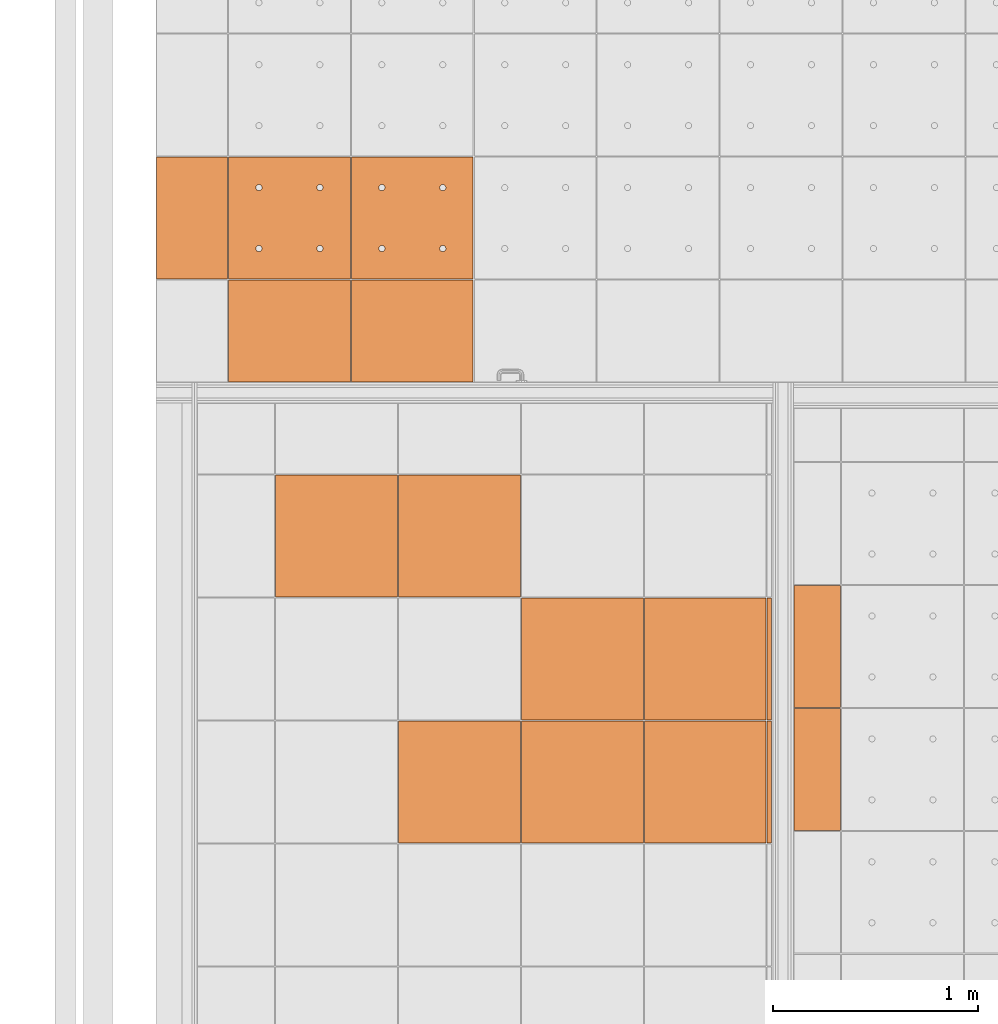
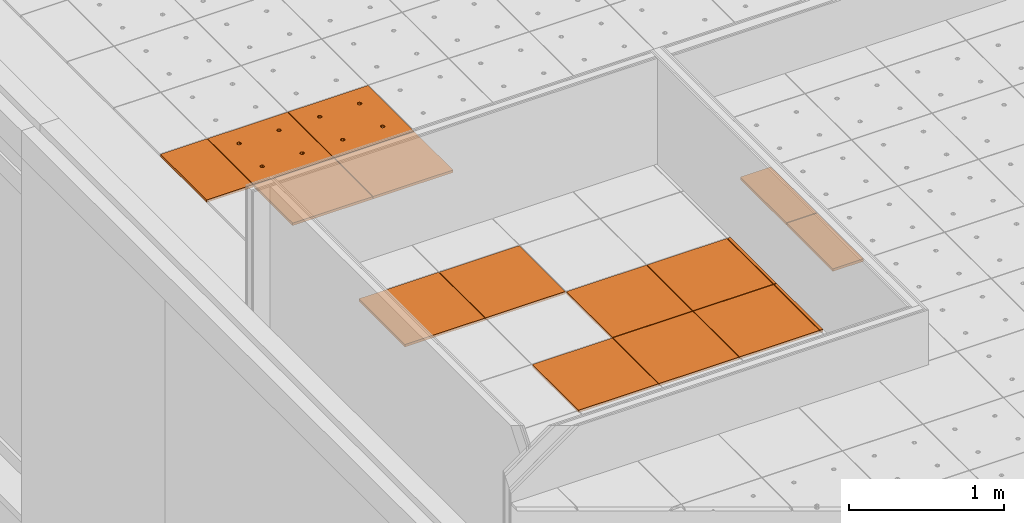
# One storey, part 243 of 338: 16 proxies, 3 elements without a shape of their own.
"""IFC2X3 building model written with IfcOpenShell, lengths in millimetres."""

from ifc_helpers import new_model, entity, si_unit, converted_unit, derived_unit, money_unit, direction, frame, origin_with_axes, place, context, subcontext, project, spatial, faceted_brep, source, transform, mapped, material, type_object, type_shapes, element, aggregate, save


model = new_model("IFC2X3")

# Units and contexts
model_context = context("Model", 3, precision=0.01, world=origin_with_axes(), true_north=direction((0.0, 1.0)))
plan_context = context("Plan", 3, precision=0.01, world=origin_with_axes(), true_north=direction((0.0, 1.0)))
body_context = subcontext(model_context, "Body", "Model", "MODEL_VIEW")
ifc_project = project(units=[si_unit("LENGTHUNIT", "METRE", prefix="MILLI"), si_unit("AREAUNIT", "SQUARE_METRE"), si_unit("VOLUMEUNIT", "CUBIC_METRE"), converted_unit("PLANEANGLEUNIT", "DEGREE", entity("IfcPlaneAngleMeasure", 0.0174532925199), si_unit("PLANEANGLEUNIT", "RADIAN"), dimensions=[0, 0, 0, 0, 0, 0, 0]), money_unit("EUR"), converted_unit("TIMEUNIT", "Year", entity("IfcTimeMeasure", 31556926.0), si_unit("TIMEUNIT", "SECOND"), dimensions=[0, 0, 1, 0, 0, 0, 0]), si_unit("MASSUNIT", "GRAM", prefix="KILO"), si_unit("THERMODYNAMICTEMPERATUREUNIT", "DEGREE_CELSIUS"), si_unit("LUMINOUSINTENSITYUNIT", "LUMEN"), si_unit("ENERGYUNIT", "JOULE", prefix="MEGA"), derived_unit("THERMALCONDUCTANCEUNIT", [(si_unit("POWERUNIT", "WATT"), 1), (si_unit("LENGTHUNIT", "METRE"), -1), (si_unit("THERMODYNAMICTEMPERATUREUNIT", "KELVIN"), -1)]), derived_unit("SPECIFICHEATCAPACITYUNIT", [(si_unit("ENERGYUNIT", "JOULE"), 1), (si_unit("MASSUNIT", "GRAM", prefix="KILO"), -1), (si_unit("THERMODYNAMICTEMPERATUREUNIT", "KELVIN"), -1)]), derived_unit("MASSDENSITYUNIT", [(si_unit("MASSUNIT", "GRAM", prefix="KILO"), 1), (si_unit("VOLUMEUNIT", "CUBIC_METRE"), -1)])], contexts=[model_context, plan_context])

# Site, building, storey
site_placement = place(None, origin_with_axes())
site = spatial("IfcSite", under=ifc_project, at=site_placement, Name="Fortuinstraat Woensdrecht", CompositionType="ELEMENT")
building_placement = place(site_placement, origin_with_axes())
building = spatial("IfcBuilding", under=site, at=building_placement, Name="IKC Fortuna", CompositionType="ELEMENT")
storey_placement = place(building_placement, origin_with_axes())
storey = spatial("IfcBuildingStorey", under=building, at=storey_placement, Name="00 begane grond", CompositionType="ELEMENT", Elevation=0.0)

# Covering, proxies
covering_type = type_object("IfcCoveringType", Name="Curtain Wall Type", PredefinedType="CEILING")
covering_1_placement = place(storey_placement, frame((15059.4416165, 34009.703821, 3210.0), z_axis=(0.0, 0.0, 1.0), x_axis=(1.0, 0.0, 0.0)))
covering_1 = element("IfcCovering", 1, at=covering_1_placement, inside=storey, type_object=covering_type, Name="45_Plafondafwerking_P01", PredefinedType="CEILING")
ifc_material = material(Name="Gipsplaat")
building_element_proxy_type_1 = type_object("IfcBuildingElementProxyType", Name="Distinct Panel 600 x 600 x 20", PredefinedType="NOTDEFINED")
shared_shape_1 = source(origin_with_axes(), body_context, "Body", "Brep", [
    faceted_brep([(2.49999999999, 2.49999999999, -10.0), (300.0, 2.49999999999, -10.0), (300.0, 2.49999999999, 10.0), (2.49999999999, 2.49999999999, 10.0), (2.49999999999, 300.0, -10.0), (2.49999999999, 597.5, -10.0), (300.0, 597.5, -10.0), (597.5, 597.5, -10.0), (597.5, 300.0, -10.0), (597.5, 2.49999999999, -10.0), (166.25, 450.06232995, -10.0), (165.79423259, 452.64711538, -10.0), (164.896546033, 455.11348892, -10.0), (163.58421608, 457.38651108, -10.0), (161.897117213, 459.39711721, -10.0), (159.886511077, 461.08421608, -10.0), (157.613488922, 462.39654603, -10.0), (155.147115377, 463.29423259, -10.0), (152.562329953, 463.75, -10.0), (149.937670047, 463.75, -10.0), (147.352884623, 463.29423259, -10.0), (144.886511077, 462.39654603, -10.0), (142.613488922, 461.08421608, -10.0), (140.602882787, 459.39711721, -10.0), (138.91578392, 457.38651108, -10.0), (137.603453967, 455.11348892, -10.0), (136.705767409, 452.64711538, -10.0), (136.25, 450.06232995, -10.0), (136.25, 448.75, -10.0), (136.25, 447.43767005, -10.0), (136.705767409, 444.85288462, -10.0), (137.603453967, 442.38651108, -10.0), (138.91578392, 440.11348892, -10.0), (140.602882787, 438.10288279, -10.0), (142.613488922, 436.41578392, -10.0), (144.886511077, 435.10345397, -10.0), (147.352884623, 434.20576741, -10.0), (149.937670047, 433.75, -10.0), (152.562329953, 433.75, -10.0), (155.147115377, 434.20576741, -10.0), (157.613488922, 435.10345397, -10.0), (159.886511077, 436.41578392, -10.0), (161.897117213, 438.10288279, -10.0), (163.58421608, 440.11348892, -10.0), (164.896546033, 442.38651108, -10.0), (165.79423259, 444.85288462, -10.0), (166.25, 447.43767005, -10.0), (463.75, 450.06232995, -10.0), (463.29423259, 452.64711538, -10.0), (462.396546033, 455.11348892, -10.0), (461.08421608, 457.38651108, -10.0), (459.397117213, 459.39711721, -10.0), (457.386511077, 461.08421608, -10.0), (455.113488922, 462.39654603, -10.0), (452.647115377, 463.29423259, -10.0), (450.062329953, 463.75, -10.0), (447.437670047, 463.75, -10.0), (444.852884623, 463.29423259, -10.0), (442.386511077, 462.39654603, -10.0), (440.113488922, 461.08421608, -10.0), (438.102882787, 459.39711721, -10.0), (436.41578392, 457.38651108, -10.0), (435.103453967, 455.11348892, -10.0), (434.205767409, 452.64711538, -10.0), (433.75, 450.06232995, -10.0), (433.75, 448.75, -10.0), (433.75, 447.43767005, -10.0), (434.205767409, 444.85288462, -10.0), (435.103453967, 442.38651108, -10.0), (436.41578392, 440.11348892, -10.0), (438.102882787, 438.10288279, -10.0), (440.113488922, 436.41578392, -10.0), (442.386511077, 435.10345397, -10.0), (444.852884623, 434.20576741, -10.0), (447.437670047, 433.75, -10.0), (450.062329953, 433.75, -10.0), (452.647115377, 434.20576741, -10.0), (455.113488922, 435.10345397, -10.0), (457.386511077, 436.41578392, -10.0), (459.397117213, 438.10288279, -10.0), (461.08421608, 440.11348892, -10.0), (462.396546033, 442.38651108, -10.0), (463.29423259, 444.85288462, -10.0), (463.75, 447.43767005, -10.0), (463.75, 152.56232995, -10.0), (463.29423259, 155.14711538, -10.0), (462.396546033, 157.61348892, -10.0), (461.08421608, 159.88651108, -10.0), (459.397117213, 161.89711721, -10.0), (457.386511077, 163.58421608, -10.0), (455.113488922, 164.89654603, -10.0), (452.647115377, 165.79423259, -10.0), (450.062329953, 166.25, -10.0), (447.437670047, 166.25, -10.0), (444.852884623, 165.79423259, -10.0), (442.386511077, 164.89654603, -10.0), (440.113488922, 163.58421608, -10.0), (438.102882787, 161.89711721, -10.0), (436.41578392, 159.88651108, -10.0), (435.103453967, 157.61348892, -10.0), (434.205767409, 155.14711538, -10.0), (433.75, 152.56232995, -10.0), (433.75, 151.25, -10.0), (433.75, 149.93767005, -10.0), (434.205767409, 147.35288462, -10.0), (435.103453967, 144.88651108, -10.0), (436.41578392, 142.61348892, -10.0), (438.102882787, 140.60288279, -10.0), (440.113488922, 138.91578392, -10.0), (442.386511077, 137.60345397, -10.0), (444.852884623, 136.70576741, -10.0), (447.437670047, 136.25, -10.0), (450.062329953, 136.25, -10.0), (452.647115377, 136.70576741, -10.0), (455.113488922, 137.60345397, -10.0), (457.386511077, 138.91578392, -10.0), (459.397117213, 140.60288279, -10.0), (461.08421608, 142.61348892, -10.0), (462.396546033, 144.88651108, -10.0), (463.29423259, 147.35288462, -10.0), (463.75, 149.93767005, -10.0), (166.25, 152.56232995, -10.0), (165.79423259, 155.14711538, -10.0), (164.896546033, 157.61348892, -10.0), (163.58421608, 159.88651108, -10.0), (161.897117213, 161.89711721, -10.0), (159.886511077, 163.58421608, -10.0), (157.613488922, 164.89654603, -10.0), (155.147115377, 165.79423259, -10.0), (152.562329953, 166.25, -10.0), (149.937670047, 166.25, -10.0), (147.352884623, 165.79423259, -10.0), (144.886511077, 164.89654603, -10.0), (142.613488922, 163.58421608, -10.0), (140.602882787, 161.89711721, -10.0), (138.91578392, 159.88651108, -10.0), (137.603453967, 157.61348892, -10.0), (136.705767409, 155.14711538, -10.0), (136.25, 152.56232995, -10.0), (136.25, 151.25, -10.0), (136.25, 149.93767005, -10.0), (136.705767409, 147.35288462, -10.0), (137.603453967, 144.88651108, -10.0), (138.91578392, 142.61348892, -10.0), (140.602882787, 140.60288279, -10.0), (142.613488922, 138.91578392, -10.0), (144.886511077, 137.60345397, -10.0), (147.352884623, 136.70576741, -10.0), (149.937670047, 136.25, -10.0), (152.562329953, 136.25, -10.0), (155.147115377, 136.70576741, -10.0), (157.613488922, 137.60345397, -10.0), (159.886511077, 138.91578392, -10.0), (161.897117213, 140.60288279, -10.0), (163.58421608, 142.61348892, -10.0), (164.896546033, 144.88651108, -10.0), (165.79423259, 147.35288462, -10.0), (166.25, 149.93767005, -10.0), (597.5, 2.49999999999, 10.0), (597.5, 300.0, 10.0), (597.5, 597.5, 10.0), (300.0, 597.5, 10.0), (2.49999999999, 597.5, 10.0), (2.49999999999, 300.0, 10.0), (166.25, 450.06232995, 10.0), (166.25, 447.43767005, 10.0), (165.79423259, 444.85288462, 10.0), (164.896546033, 442.38651108, 10.0), (163.58421608, 440.11348892, 10.0), (161.897117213, 438.10288279, 10.0), (159.886511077, 436.41578392, 10.0), (157.613488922, 435.10345397, 10.0), (155.147115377, 434.20576741, 10.0), (152.562329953, 433.75, 10.0), (149.937670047, 433.75, 10.0), (147.352884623, 434.20576741, 10.0), (144.886511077, 435.10345397, 10.0), (142.613488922, 436.41578392, 10.0), (140.602882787, 438.10288279, 10.0), (138.91578392, 440.11348892, 10.0), (137.603453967, 442.38651108, 10.0), (136.705767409, 444.85288462, 10.0), (136.25, 447.43767005, 10.0), (136.25, 448.75, 10.0), (136.25, 450.06232995, 10.0), (136.705767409, 452.64711538, 10.0), (137.603453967, 455.11348892, 10.0), (138.91578392, 457.38651108, 10.0), (140.602882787, 459.39711721, 10.0), (142.613488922, 461.08421608, 10.0), (144.886511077, 462.39654603, 10.0), (147.352884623, 463.29423259, 10.0), (149.937670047, 463.75, 10.0), (152.562329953, 463.75, 10.0), (155.147115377, 463.29423259, 10.0), (157.613488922, 462.39654603, 10.0), (159.886511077, 461.08421608, 10.0), (161.897117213, 459.39711721, 10.0), (163.58421608, 457.38651108, 10.0), (164.896546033, 455.11348892, 10.0), (165.79423259, 452.64711538, 10.0), (463.75, 450.06232995, 10.0), (463.75, 447.43767005, 10.0), (463.29423259, 444.85288462, 10.0), (462.396546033, 442.38651108, 10.0), (461.08421608, 440.11348892, 10.0), (459.397117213, 438.10288279, 10.0), (457.386511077, 436.41578392, 10.0), (455.113488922, 435.10345397, 10.0), (452.647115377, 434.20576741, 10.0), (450.062329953, 433.75, 10.0), (447.437670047, 433.75, 10.0), (444.852884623, 434.20576741, 10.0), (442.386511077, 435.10345397, 10.0), (440.113488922, 436.41578392, 10.0), (438.102882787, 438.10288279, 10.0), (436.41578392, 440.11348892, 10.0), (435.103453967, 442.38651108, 10.0), (434.205767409, 444.85288462, 10.0), (433.75, 447.43767005, 10.0), (433.75, 448.75, 10.0), (433.75, 450.06232995, 10.0), (434.205767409, 452.64711538, 10.0), (435.103453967, 455.11348892, 10.0), (436.41578392, 457.38651108, 10.0), (438.102882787, 459.39711721, 10.0), (440.113488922, 461.08421608, 10.0), (442.386511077, 462.39654603, 10.0), (444.852884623, 463.29423259, 10.0), (447.437670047, 463.75, 10.0), (450.062329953, 463.75, 10.0), (452.647115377, 463.29423259, 10.0), (455.113488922, 462.39654603, 10.0), (457.386511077, 461.08421608, 10.0), (459.397117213, 459.39711721, 10.0), (461.08421608, 457.38651108, 10.0), (462.396546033, 455.11348892, 10.0), (463.29423259, 452.64711538, 10.0), (463.75, 152.56232995, 10.0), (463.75, 149.93767005, 10.0), (463.29423259, 147.35288462, 10.0), (462.396546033, 144.88651108, 10.0), (461.08421608, 142.61348892, 10.0), (459.397117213, 140.60288279, 10.0), (457.386511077, 138.91578392, 10.0), (455.113488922, 137.60345397, 10.0), (452.647115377, 136.70576741, 10.0), (450.062329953, 136.25, 10.0), (447.437670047, 136.25, 10.0), (444.852884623, 136.70576741, 10.0), (442.386511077, 137.60345397, 10.0), (440.113488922, 138.91578392, 10.0), (438.102882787, 140.60288279, 10.0), (436.41578392, 142.61348892, 10.0), (435.103453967, 144.88651108, 10.0), (434.205767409, 147.35288462, 10.0), (433.75, 149.93767005, 10.0), (433.75, 151.25, 10.0), (433.75, 152.56232995, 10.0), (434.205767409, 155.14711538, 10.0), (435.103453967, 157.61348892, 10.0), (436.41578392, 159.88651108, 10.0), (438.102882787, 161.89711721, 10.0), (440.113488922, 163.58421608, 10.0), (442.386511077, 164.89654603, 10.0), (444.852884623, 165.79423259, 10.0), (447.437670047, 166.25, 10.0), (450.062329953, 166.25, 10.0), (452.647115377, 165.79423259, 10.0), (455.113488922, 164.89654603, 10.0), (457.386511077, 163.58421608, 10.0), (459.397117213, 161.89711721, 10.0), (461.08421608, 159.88651108, 10.0), (462.396546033, 157.61348892, 10.0), (463.29423259, 155.14711538, 10.0), (166.25, 152.56232995, 10.0), (166.25, 149.93767005, 10.0), (165.79423259, 147.35288462, 10.0), (164.896546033, 144.88651108, 10.0), (163.58421608, 142.61348892, 10.0), (161.897117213, 140.60288279, 10.0), (159.886511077, 138.91578392, 10.0), (157.613488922, 137.60345397, 10.0), (155.147115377, 136.70576741, 10.0), (152.562329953, 136.25, 10.0), (149.937670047, 136.25, 10.0), (147.352884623, 136.70576741, 10.0), (144.886511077, 137.60345397, 10.0), (142.613488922, 138.91578392, 10.0), (140.602882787, 140.60288279, 10.0), (138.91578392, 142.61348892, 10.0), (137.603453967, 144.88651108, 10.0), (136.705767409, 147.35288462, 10.0), (136.25, 149.93767005, 10.0), (136.25, 151.25, 10.0), (136.25, 152.56232995, 10.0), (136.705767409, 155.14711538, 10.0), (137.603453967, 157.61348892, 10.0), (138.91578392, 159.88651108, 10.0), (140.602882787, 161.89711721, 10.0), (142.613488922, 163.58421608, 10.0), (144.886511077, 164.89654603, 10.0), (147.352884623, 165.79423259, 10.0), (149.937670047, 166.25, 10.0), (152.562329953, 166.25, 10.0), (155.147115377, 165.79423259, 10.0), (157.613488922, 164.89654603, 10.0), (159.886511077, 163.58421608, 10.0), (161.897117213, 161.89711721, 10.0), (163.58421608, 159.88651108, 10.0), (164.896546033, 157.61348892, 10.0), (165.79423259, 155.14711538, 10.0)], [[[0, 1, 2, 3]], [[0, 4, 5, 6, 7, 8, 9, 1], [10, 11, 12, 13, 14, 15, 16, 17, 18, 19, 20, 21, 22, 23, 24, 25, 26, 27, 28, 29, 30, 31, 32, 33, 34, 35, 36, 37, 38, 39, 40, 41, 42, 43, 44, 45, 46], [47, 48, 49, 50, 51, 52, 53, 54, 55, 56, 57, 58, 59, 60, 61, 62, 63, 64, 65, 66, 67, 68, 69, 70, 71, 72, 73, 74, 75, 76, 77, 78, 79, 80, 81, 82, 83], [84, 85, 86, 87, 88, 89, 90, 91, 92, 93, 94, 95, 96, 97, 98, 99, 100, 101, 102, 103, 104, 105, 106, 107, 108, 109, 110, 111, 112, 113, 114, 115, 116, 117, 118, 119, 120], [121, 122, 123, 124, 125, 126, 127, 128, 129, 130, 131, 132, 133, 134, 135, 136, 137, 138, 139, 140, 141, 142, 143, 144, 145, 146, 147, 148, 149, 150, 151, 152, 153, 154, 155, 156, 157]], [[1, 9, 158, 2]], [[3, 2, 158, 159, 160, 161, 162, 163], [164, 165, 166, 167, 168, 169, 170, 171, 172, 173, 174, 175, 176, 177, 178, 179, 180, 181, 182, 183, 184, 185, 186, 187, 188, 189, 190, 191, 192, 193, 194, 195, 196, 197, 198, 199, 200], [201, 202, 203, 204, 205, 206, 207, 208, 209, 210, 211, 212, 213, 214, 215, 216, 217, 218, 219, 220, 221, 222, 223, 224, 225, 226, 227, 228, 229, 230, 231, 232, 233, 234, 235, 236, 237], [238, 239, 240, 241, 242, 243, 244, 245, 246, 247, 248, 249, 250, 251, 252, 253, 254, 255, 256, 257, 258, 259, 260, 261, 262, 263, 264, 265, 266, 267, 268, 269, 270, 271, 272, 273, 274], [275, 276, 277, 278, 279, 280, 281, 282, 283, 284, 285, 286, 287, 288, 289, 290, 291, 292, 293, 294, 295, 296, 297, 298, 299, 300, 301, 302, 303, 304, 305, 306, 307, 308, 309, 310, 311]], [[4, 0, 3, 163]], [[5, 4, 163, 162]], [[6, 5, 162, 161]], [[7, 6, 161, 160]], [[8, 7, 160, 159]], [[9, 8, 159, 158]], [[11, 10, 164, 200]], [[12, 11, 200, 199]], [[13, 12, 199, 198]], [[14, 13, 198, 197]], [[15, 14, 197, 196]], [[16, 15, 196, 195]], [[17, 16, 195, 194]], [[18, 17, 194, 193]], [[19, 18, 193, 192]], [[20, 19, 192, 191]], [[21, 20, 191, 190]], [[22, 21, 190, 189]], [[23, 22, 189, 188]], [[24, 23, 188, 187]], [[25, 24, 187, 186]], [[26, 25, 186, 185]], [[27, 26, 185, 184]], [[28, 27, 184, 183]], [[29, 28, 183, 182]], [[30, 29, 182, 181]], [[31, 30, 181, 180]], [[32, 31, 180, 179]], [[33, 32, 179, 178]], [[34, 33, 178, 177]], [[35, 34, 177, 176]], [[36, 35, 176, 175]], [[37, 36, 175, 174]], [[38, 37, 174, 173]], [[39, 38, 173, 172]], [[40, 39, 172, 171]], [[41, 40, 171, 170]], [[42, 41, 170, 169]], [[43, 42, 169, 168]], [[44, 43, 168, 167]], [[45, 44, 167, 166]], [[46, 45, 166, 165]], [[10, 46, 165, 164]], [[48, 47, 201, 237]], [[49, 48, 237, 236]], [[50, 49, 236, 235]], [[51, 50, 235, 234]], [[52, 51, 234, 233]], [[53, 52, 233, 232]], [[54, 53, 232, 231]], [[55, 54, 231, 230]], [[56, 55, 230, 229]], [[57, 56, 229, 228]], [[58, 57, 228, 227]], [[59, 58, 227, 226]], [[60, 59, 226, 225]], [[61, 60, 225, 224]], [[62, 61, 224, 223]], [[63, 62, 223, 222]], [[64, 63, 222, 221]], [[65, 64, 221, 220]], [[66, 65, 220, 219]], [[67, 66, 219, 218]], [[68, 67, 218, 217]], [[69, 68, 217, 216]], [[70, 69, 216, 215]], [[71, 70, 215, 214]], [[72, 71, 214, 213]], [[73, 72, 213, 212]], [[74, 73, 212, 211]], [[75, 74, 211, 210]], [[76, 75, 210, 209]], [[77, 76, 209, 208]], [[78, 77, 208, 207]], [[79, 78, 207, 206]], [[80, 79, 206, 205]], [[81, 80, 205, 204]], [[82, 81, 204, 203]], [[83, 82, 203, 202]], [[47, 83, 202, 201]], [[85, 84, 238, 274]], [[86, 85, 274, 273]], [[87, 86, 273, 272]], [[88, 87, 272, 271]], [[89, 88, 271, 270]], [[90, 89, 270, 269]], [[91, 90, 269, 268]], [[92, 91, 268, 267]], [[93, 92, 267, 266]], [[94, 93, 266, 265]], [[95, 94, 265, 264]], [[96, 95, 264, 263]], [[97, 96, 263, 262]], [[98, 97, 262, 261]], [[99, 98, 261, 260]], [[100, 99, 260, 259]], [[101, 100, 259, 258]], [[102, 101, 258, 257]], [[103, 102, 257, 256]], [[104, 103, 256, 255]], [[105, 104, 255, 254]], [[106, 105, 254, 253]], [[107, 106, 253, 252]], [[108, 107, 252, 251]], [[109, 108, 251, 250]], [[110, 109, 250, 249]], [[111, 110, 249, 248]], [[112, 111, 248, 247]], [[113, 112, 247, 246]], [[114, 113, 246, 245]], [[115, 114, 245, 244]], [[116, 115, 244, 243]], [[117, 116, 243, 242]], [[118, 117, 242, 241]], [[119, 118, 241, 240]], [[120, 119, 240, 239]], [[84, 120, 239, 238]], [[122, 121, 275, 311]], [[123, 122, 311, 310]], [[124, 123, 310, 309]], [[125, 124, 309, 308]], [[126, 125, 308, 307]], [[127, 126, 307, 306]], [[128, 127, 306, 305]], [[129, 128, 305, 304]], [[130, 129, 304, 303]], [[131, 130, 303, 302]], [[132, 131, 302, 301]], [[133, 132, 301, 300]], [[134, 133, 300, 299]], [[135, 134, 299, 298]], [[136, 135, 298, 297]], [[137, 136, 297, 296]], [[138, 137, 296, 295]], [[139, 138, 295, 294]], [[140, 139, 294, 293]], [[141, 140, 293, 292]], [[142, 141, 292, 291]], [[143, 142, 291, 290]], [[144, 143, 290, 289]], [[145, 144, 289, 288]], [[146, 145, 288, 287]], [[147, 146, 287, 286]], [[148, 147, 286, 285]], [[149, 148, 285, 284]], [[150, 149, 284, 283]], [[151, 150, 283, 282]], [[152, 151, 282, 281]], [[153, 152, 281, 280]], [[154, 153, 280, 279]], [[155, 154, 279, 278]], [[156, 155, 278, 277]], [[157, 156, 277, 276]], [[121, 157, 276, 275]]]),
])
proxy_1_placement = place(covering_1_placement, frame((-600.0, -6600.0, 1.95843341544e-10), z_axis=(0.0, 0.0, 1.0), x_axis=(1.0, 0.0, 0.0)))
proxy_1 = element("IfcBuildingElementProxy", 2, at=proxy_1_placement, type_object=building_element_proxy_type_1, material=ifc_material, Name="__Panel-D", context=body_context, shape_type="MappedRepresentation", body=[
    mapped(shared_shape_1, transform((300.0, 300.0, 0.0), x_axis=(-1.0, 0.0, 0.0), y_axis=(0.0, -1.0, 0.0), z_axis=(0.0, 0.0, 1.0))),
])
proxy_2_placement = place(covering_1_placement, frame((0.0, -6600.0, 1.7630341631e-10), z_axis=(0.0, 0.0, 1.0), x_axis=(1.0, 0.0, 0.0)))
proxy_2 = element("IfcBuildingElementProxy", 3, at=proxy_2_placement, type_object=building_element_proxy_type_1, material=ifc_material, Name="__Panel-D", context=body_context, shape_type="MappedRepresentation", body=[
    mapped(shared_shape_1, transform((300.0, 300.0, 0.0), x_axis=(-1.0, 0.0, 0.0), y_axis=(0.0, -1.0, 0.0), z_axis=(0.0, 0.0, 1.0))),
])
building_element_proxy_type_2 = type_object("IfcBuildingElementProxyType", Name="Main Panel 350 x 600 x 20", PredefinedType="NOTDEFINED")
shared_shape_2 = source(origin_with_axes(), body_context, "Body", "Brep", [
    faceted_brep([(2.49999837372, 2.5, -10.0), (347.50666814, 2.49999999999, -10.0), (347.50666814, 2.49999999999, 10.0), (2.49999837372, 2.5, 10.0), (2.49999837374, 597.5, -10.0), (347.506659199, 597.5, -10.0), (347.506659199, 597.5, 10.0), (2.49999837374, 597.5, 10.0)], [[[0, 1, 2, 3]], [[0, 4, 5, 1]], [[1, 5, 6, 2]], [[3, 2, 6, 7]], [[4, 0, 3, 7]], [[5, 4, 7, 6]]]),
])
type_shapes(building_element_proxy_type_2, [shared_shape_2])
proxy_3_placement = place(covering_1_placement, frame((-1075.00333109, -6600.0, 2.11386463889e-10), z_axis=(0.0, 0.0, 1.0), x_axis=(1.0, 0.0, 0.0)))
proxy_3 = element("IfcBuildingElementProxy", 4, at=proxy_3_placement, type_object=building_element_proxy_type_2, material=ifc_material, Name="__Panel-D", context=body_context, shape_type="MappedRepresentation", body=[
    mapped(shared_shape_2, transform((175.003331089, 300.0, 0.0), x_axis=(-1.0, 0.0, 0.0), y_axis=(0.0, -1.0, 0.0), z_axis=(0.0, 0.0, 1.0))),
])
building_element_proxy_type_3 = type_object("IfcBuildingElementProxyType", Name="Main Panel 600 x 503 x 20", PredefinedType="NOTDEFINED")
shared_shape_3 = source(origin_with_axes(), body_context, "Body", "Brep", [
    faceted_brep([(2.49999999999, 2.49999752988, -10.0), (597.5, 2.49999752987, -10.0), (597.5, 2.49999752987, 10.0), (2.49999999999, 2.49999752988, 10.0), (2.5, 500.092828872, -10.0), (597.5, 500.092828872, -10.0), (597.5, 500.092828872, 10.0), (2.5, 500.092828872, 10.0)], [[[0, 1, 2, 3]], [[0, 4, 5, 1]], [[1, 5, 6, 2]], [[3, 2, 6, 7]], [[4, 0, 3, 7]], [[5, 4, 7, 6]]]),
])
proxy_4_placement = place(covering_1_placement, frame((0.0, -7151.29641444, 1.7630341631e-10), z_axis=(0.0, 0.0, 1.0), x_axis=(1.0, 0.0, 0.0)))
proxy_4 = element("IfcBuildingElementProxy", 5, at=proxy_4_placement, type_object=building_element_proxy_type_3, material=ifc_material, Name="__Panel-D", context=body_context, shape_type="MappedRepresentation", body=[
    mapped(shared_shape_3, transform((300.0, 251.296414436, 0.0), x_axis=(-1.0, 0.0, 0.0), y_axis=(0.0, -1.0, 0.0), z_axis=(0.0, 0.0, 1.0))),
])
shared_shape_4 = source(origin_with_axes(), body_context, "Body", "Brep", [
    faceted_brep([(2.49999999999, 2.49999752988, -10.0), (597.5, 2.49999752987, -10.0), (597.5, 2.49999752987, 10.0), (2.49999999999, 2.49999752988, 10.0), (2.5, 500.092828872, -10.0), (597.5, 500.092828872, -10.0), (597.5, 500.092828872, 10.0), (2.5, 500.092828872, 10.0)], [[[0, 1, 2, 3]], [[0, 4, 5, 1]], [[1, 5, 6, 2]], [[3, 2, 6, 7]], [[4, 0, 3, 7]], [[5, 4, 7, 6]]]),
])
type_shapes(building_element_proxy_type_3, [shared_shape_3, shared_shape_4])
proxy_5_placement = place(covering_1_placement, frame((-600.0, -7151.29641444, 1.95843341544e-10), z_axis=(0.0, 0.0, 1.0), x_axis=(1.0, 0.0, 0.0)))
proxy_5 = element("IfcBuildingElementProxy", 6, at=proxy_5_placement, type_object=building_element_proxy_type_3, material=ifc_material, Name="__Panel-D", context=body_context, shape_type="MappedRepresentation", body=[
    mapped(shared_shape_4, transform((300.0, 251.296414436, 0.0), x_axis=(-1.0, 0.0, 0.0), y_axis=(0.0, -1.0, 0.0), z_axis=(0.0, 0.0, 1.0))),
])
aggregate(covering_1, [proxy_3, proxy_1, proxy_2, proxy_5, proxy_4])

covering_2_placement = place(storey_placement, frame((14689.4846177, 25257.3287491, 2810.0), z_axis=(0.0, 0.0, 1.0), x_axis=(1.0, 0.0, 0.0)))
covering_2 = element("IfcCovering", 7, at=covering_2_placement, inside=storey, type_object=covering_type, Name="45_Plafondafwerking_P02", PredefinedType="CEILING")
shared_shape_5 = source(origin_with_axes(), body_context, "Body", "Brep", [
    faceted_brep([(-2.49999999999, 2.5, -10.0), (-2.49999999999, 2.5, 10.0), (-597.5, 2.49999999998, 10.0), (-597.5, 2.49999999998, -10.0), (-2.50000000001, 597.5, -10.0), (-2.50000000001, 597.5, 10.0), (-597.5, 597.5, 10.0), (-597.5, 597.5, -10.0)], [[[0, 1, 2, 3]], [[4, 5, 1, 0]], [[1, 5, 6, 2]], [[3, 2, 6, 7]], [[0, 3, 7, 4]], [[7, 6, 5, 4]]]),
])
proxy_6_placement = place(covering_2_placement, frame((600.0, 600.0, 0.0), z_axis=(0.0, 0.0, 1.0), x_axis=(1.0, 0.0, 0.0)))
proxy_6 = element("IfcBuildingElementProxy", 8, at=proxy_6_placement, type_object=building_element_proxy_type_1, material=ifc_material, Name="__Panel-D", context=body_context, shape_type="MappedRepresentation", body=[
    mapped(shared_shape_5, transform((-300.0, 300.0, 0.0), x_axis=(-1.0, 0.0, 0.0), y_axis=(0.0, -1.0, 0.0), z_axis=(0.0, 0.0, 1.0))),
])
proxy_7_placement = place(covering_2_placement, frame((600.0, -600.0, 0.0), z_axis=(0.0, 0.0, 1.0), x_axis=(1.0, 0.0, 0.0)))
proxy_7 = element("IfcBuildingElementProxy", 9, at=proxy_7_placement, type_object=building_element_proxy_type_1, material=ifc_material, Name="__Panel-D", context=body_context, shape_type="MappedRepresentation", body=[
    mapped(shared_shape_5, transform((-300.0, 300.0, 0.0), x_axis=(-1.0, 0.0, 0.0), y_axis=(0.0, -1.0, 0.0), z_axis=(0.0, 0.0, 1.0))),
])
proxy_8_placement = place(covering_2_placement, frame((1200.0, -600.0, 0.0), z_axis=(0.0, 0.0, 1.0), x_axis=(1.0, 0.0, 0.0)))
proxy_8 = element("IfcBuildingElementProxy", 10, at=proxy_8_placement, type_object=building_element_proxy_type_1, material=ifc_material, Name="__Panel-D", context=body_context, shape_type="MappedRepresentation", body=[
    mapped(shared_shape_5, transform((-300.0, 300.0, 0.0), x_axis=(-1.0, 0.0, 0.0), y_axis=(0.0, -1.0, 0.0), z_axis=(0.0, 0.0, 1.0))),
])
proxy_9_placement = place(covering_2_placement, frame((1200.0, 0.0, 0.0), z_axis=(0.0, 0.0, 1.0), x_axis=(1.0, 0.0, 0.0)))
proxy_9 = element("IfcBuildingElementProxy", 11, at=proxy_9_placement, type_object=building_element_proxy_type_1, material=ifc_material, Name="__Panel-D", context=body_context, shape_type="MappedRepresentation", body=[
    mapped(shared_shape_5, transform((-300.0, 300.0, 0.0), x_axis=(-1.0, 0.0, 0.0), y_axis=(0.0, -1.0, 0.0), z_axis=(0.0, 0.0, 1.0))),
])
shared_shape_6 = source(origin_with_axes(), body_context, "Body", "Brep", [
    faceted_brep([(-2.5000069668, 2.4999963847, -10.0), (-2.5000069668, 2.4999963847, 10.0), (-597.499995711, 2.50000275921, 10.0), (-597.499995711, 2.50000275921, -10.0), (-2.50000214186, 597.499967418, -10.0), (-2.50000214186, 597.499967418, 10.0), (-597.499990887, 597.499973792, 10.0), (-597.499990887, 597.499973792, -10.0)], [[[0, 1, 2, 3]], [[4, 5, 1, 0]], [[1, 5, 6, 2]], [[3, 2, 6, 7]], [[0, 3, 7, 4]], [[7, 6, 5, 4]]]),
])
proxy_10_placement = place(covering_2_placement, frame((0.0, 600.0, 0.0), z_axis=(0.0, 0.0, 1.0), x_axis=(1.0, 0.0, 0.0)))
proxy_10 = element("IfcBuildingElementProxy", 12, at=proxy_10_placement, type_object=building_element_proxy_type_1, material=ifc_material, Name="__Panel-D", context=body_context, shape_type="MappedRepresentation", body=[
    mapped(shared_shape_6, transform((-300.0, 300.0, 0.0), x_axis=(-1.0, 0.0, 0.0), y_axis=(0.0, -1.0, 0.0), z_axis=(0.0, 0.0, 1.0))),
])
shared_shape_7 = source(origin_with_axes(), body_context, "Body", "Brep", [
    faceted_brep([(-2.50000185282, 2.50000514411, -10.0), (-2.50000185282, 2.50000514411, 10.0), (-597.499994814, 2.50000188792, 10.0), (-597.499994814, 2.50000188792, -10.0), (-2.50000510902, 597.499998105, -10.0), (-2.50000510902, 597.499998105, 10.0), (-597.49998844, 597.50000293, 10.0), (-597.49998844, 597.50000293, -10.0)], [[[0, 1, 2, 3]], [[4, 5, 1, 0]], [[1, 5, 6, 2]], [[3, 2, 6, 7]], [[0, 3, 7, 4]], [[7, 6, 5, 4]]]),
])
proxy_11_placement = place(covering_2_placement, frame((1800.0, -600.0, 0.0), z_axis=(0.0, 0.0, 1.0), x_axis=(1.0, 0.0, 0.0)))
proxy_11 = element("IfcBuildingElementProxy", 13, at=proxy_11_placement, type_object=building_element_proxy_type_1, material=ifc_material, Name="__Panel-D", context=body_context, shape_type="MappedRepresentation", body=[
    mapped(shared_shape_7, transform((-300.0, 300.0, 0.0), x_axis=(-1.0, 0.0, 0.0), y_axis=(0.0, -1.0, 0.0), z_axis=(0.0, 0.0, 1.0))),
])
shared_shape_8 = source(origin_with_axes(), body_context, "Body", "Brep", [
    faceted_brep([(-2.49999999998, 2.5, -10.0), (-2.49999999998, 2.5, 10.0), (-597.5, 2.49999999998, 10.0), (-597.5, 2.49999999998, -10.0), (-2.50000000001, 597.5, -10.0), (-2.50000000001, 597.5, 10.0), (-597.5, 597.5, 10.0), (-597.5, 597.5, -10.0)], [[[0, 1, 2, 3]], [[4, 5, 1, 0]], [[1, 5, 6, 2]], [[3, 2, 6, 7]], [[0, 3, 7, 4]], [[7, 6, 5, 4]]]),
])
type_shapes(building_element_proxy_type_1, [shared_shape_1, shared_shape_5, shared_shape_6, shared_shape_7, shared_shape_8])
proxy_12_placement = place(covering_2_placement, frame((1800.0, 0.0, 0.0), z_axis=(0.0, 0.0, 1.0), x_axis=(1.0, 0.0, 0.0)))
proxy_12 = element("IfcBuildingElementProxy", 14, at=proxy_12_placement, type_object=building_element_proxy_type_1, material=ifc_material, Name="__Panel-D", context=body_context, shape_type="MappedRepresentation", body=[
    mapped(shared_shape_8, transform((-300.0, 300.0, 0.0), x_axis=(-1.0, 0.0, 0.0), y_axis=(0.0, -1.0, 0.0), z_axis=(0.0, 0.0, 1.0))),
])
building_element_proxy_type_4 = type_object("IfcBuildingElementProxyType", Name="Distinct Panel 26 x 600 x 20", PredefinedType="NOTDEFINED")
shared_shape_9 = source(origin_with_axes(), body_context, "Body", "Brep", [
    faceted_brep([(-2.50000116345, 2.5, -10.0), (-2.50000116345, 2.5, 10.0), (-23.5482988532, 2.5, 10.0), (-23.5482988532, 2.5, -10.0), (-2.50000116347, 597.5, -10.0), (-2.50000116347, 597.5, 10.0), (-23.5482988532, 597.5, 10.0), (-23.5482988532, 597.5, -10.0)], [[[0, 1, 2, 3]], [[4, 5, 1, 0]], [[1, 5, 6, 2]], [[3, 2, 6, 7]], [[0, 3, 7, 4]], [[7, 6, 5, 4]]]),
])
type_shapes(building_element_proxy_type_4, [shared_shape_9])
proxy_13_placement = place(covering_2_placement, frame((2113.02414943, -600.0, 0.0), z_axis=(0.0, 0.0, 1.0), x_axis=(1.0, 0.0, 0.0)))
proxy_13 = element("IfcBuildingElementProxy", 15, at=proxy_13_placement, type_object=building_element_proxy_type_4, material=ifc_material, Name="__Panel-D", context=body_context, shape_type="MappedRepresentation", body=[
    mapped(shared_shape_9, transform((-13.0241494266, 300.0, 0.0), x_axis=(-1.0, 0.0, 0.0), y_axis=(0.0, -1.0, 0.0), z_axis=(0.0, 0.0, 1.0))),
])
proxy_14_placement = place(covering_2_placement, frame((2113.02414943, 0.0, 0.0), z_axis=(0.0, 0.0, 1.0), x_axis=(1.0, 0.0, 0.0)))
proxy_14 = element("IfcBuildingElementProxy", 16, at=proxy_14_placement, type_object=building_element_proxy_type_4, material=ifc_material, Name="__Panel-D", context=body_context, shape_type="MappedRepresentation", body=[
    mapped(shared_shape_9, transform((-13.0241494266, 300.0, 0.0), x_axis=(-1.0, 0.0, 0.0), y_axis=(0.0, -1.0, 0.0), z_axis=(0.0, 0.0, 1.0))),
])
aggregate(covering_2, [proxy_6, proxy_11, proxy_12, proxy_7, proxy_8, proxy_9, proxy_10, proxy_13, proxy_14])

covering_3_placement = place(storey_placement, frame((17451.9845996, 24118.5314449, 3210.0), z_axis=(0.0, 0.0, 1.0), x_axis=(1.0, 0.0, 0.0)))
covering_3 = element("IfcCovering", 17, at=covering_3_placement, inside=storey, type_object=covering_type, Name="45_Plafondafwerking_P01", PredefinedType="CEILING")
building_element_proxy_type_5 = type_object("IfcBuildingElementProxyType", Name="232 x 600 x 20", PredefinedType="NOTDEFINED")
shared_shape_10 = source(origin_with_axes(), body_context, "Body", "Brep", [
    faceted_brep([(2.50000198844, 2.5, -10.0), (229.950372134, 2.5, -10.0), (229.950372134, 2.5, 10.0), (2.50000198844, 2.5, 10.0), (2.50000198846, 597.5, -10.0), (229.950372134, 597.5, -10.0), (229.950372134, 597.5, 10.0), (2.50000198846, 597.5, 10.0)], [[[0, 1, 2, 3]], [[0, 4, 5, 1]], [[1, 5, 6, 2]], [[3, 2, 6, 7]], [[4, 0, 3, 7]], [[5, 4, 7, 6]]]),
])
type_shapes(building_element_proxy_type_5, [shared_shape_10])
proxy_15_placement = place(covering_3_placement, frame((-416.225186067, 1200.0, 1.11466391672e-10), z_axis=(0.0, 0.0, 1.0), x_axis=(1.0, 0.0, 0.0)))
proxy_15 = element("IfcBuildingElementProxy", 18, at=proxy_15_placement, type_object=building_element_proxy_type_5, material=ifc_material, Name="__600x638 Rockfon Krios", context=body_context, shape_type="MappedRepresentation", body=[
    mapped(shared_shape_10, transform((116.225186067, 300.0, 0.0), x_axis=(-1.0, 0.0, 0.0), y_axis=(0.0, -1.0, 0.0), z_axis=(0.0, 0.0, 1.0))),
])
proxy_16_placement = place(covering_3_placement, frame((-416.225186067, 600.0, 1.11466391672e-10), z_axis=(0.0, 0.0, 1.0), x_axis=(1.0, 0.0, 0.0)))
proxy_16 = element("IfcBuildingElementProxy", 19, at=proxy_16_placement, type_object=building_element_proxy_type_5, material=ifc_material, Name="__600x765 Rockfon Krios", context=body_context, shape_type="MappedRepresentation", body=[
    mapped(shared_shape_10, transform((116.225186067, 300.0, 0.0), x_axis=(-1.0, 0.0, 0.0), y_axis=(0.0, -1.0, 0.0), z_axis=(0.0, 0.0, 1.0))),
])
aggregate(covering_3, [proxy_15, proxy_16])

save(model, "model.ifc")
